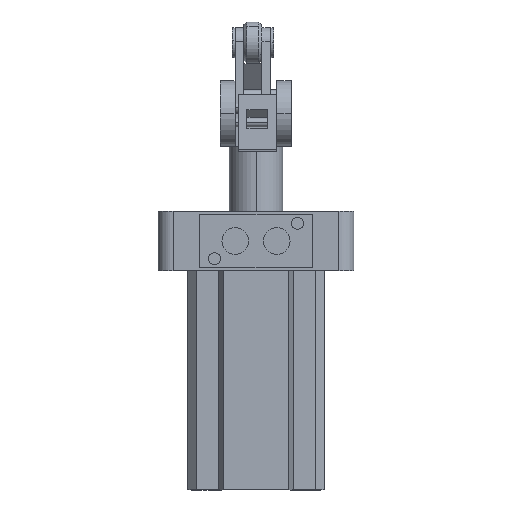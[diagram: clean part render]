
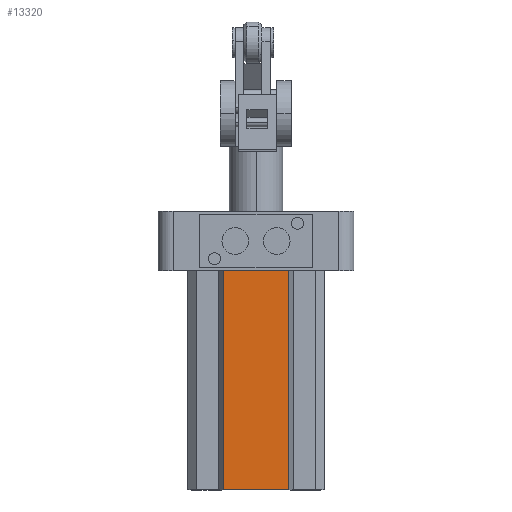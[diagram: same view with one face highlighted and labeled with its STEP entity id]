
A CAD part, left-side view. The second image highlights one B-rep face of the part: STEP entity #13320.
In plain terms, the highlighted planar face has unit normal (-1, 0, 0).
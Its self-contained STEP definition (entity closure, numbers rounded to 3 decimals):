
#2213 = CARTESIAN_POINT ( 'NONE',  ( -51.796, 11.998, 74. ) ) ;
#2266 = DIRECTION ( 'NONE',  ( -1., 0., 0. ) ) ;
#2267 = CARTESIAN_POINT ( 'NONE',  ( -51.796, 11.998, 0. ) ) ;
#2268 = AXIS2_PLACEMENT_3D ( 'NONE', #2267, #2266, #2319 ) ;
#2292 = PLANE ( 'NONE',  #2268 ) ;
#2294 = FACE_OUTER_BOUND ( 'NONE', #13326, .T. ) ;
#2319 = DIRECTION ( 'NONE',  ( 0., 0., 1. ) ) ;
#4292 = VERTEX_POINT ( 'NONE', #15109 ) ;
#4296 = VERTEX_POINT ( 'NONE', #14870 ) ;
#4315 = EDGE_CURVE ( 'NONE', #4292, #4296, #7023, .T. ) ;
#4880 = VERTEX_POINT ( 'NONE', #8671 ) ;
#4894 = ORIENTED_EDGE ( 'NONE', *, *, #4905, .F. ) ;
#4905 = EDGE_CURVE ( 'NONE', #4292, #4880, #8783, .T. ) ;
#4945 = EDGE_CURVE ( 'NONE', #13315, #4296, #8868, .T. ) ;
#5081 = EDGE_CURVE ( 'NONE', #13315, #4880, #9320, .T. ) ;
#7008 = DIRECTION ( 'NONE',  ( 0., -1., 0. ) ) ;
#7009 = VECTOR ( 'NONE', #7008, 1000. ) ;
#7022 = CARTESIAN_POINT ( 'NONE',  ( -51.796, 11.998, 0. ) ) ;
#7023 = LINE ( 'NONE', #7022, #7009 ) ;
#8671 = CARTESIAN_POINT ( 'NONE',  ( -51.796, 33.998, 74. ) ) ;
#8780 = DIRECTION ( 'NONE',  ( 0., 0., 1. ) ) ;
#8781 = VECTOR ( 'NONE', #8780, 1000. ) ;
#8782 = CARTESIAN_POINT ( 'NONE',  ( -51.796, 33.998, 0. ) ) ;
#8783 = LINE ( 'NONE', #8782, #8781 ) ;
#8865 = DIRECTION ( 'NONE',  ( 0., 0., -1. ) ) ;
#8866 = VECTOR ( 'NONE', #8865, 1000. ) ;
#8867 = CARTESIAN_POINT ( 'NONE',  ( -51.796, 11.998, 0. ) ) ;
#8868 = LINE ( 'NONE', #8867, #8866 ) ;
#9314 = DIRECTION ( 'NONE',  ( 0., 1., 0. ) ) ;
#9315 = VECTOR ( 'NONE', #9314, 1000. ) ;
#9319 = CARTESIAN_POINT ( 'NONE',  ( -51.796, -10., 74. ) ) ;
#9320 = LINE ( 'NONE', #9319, #9315 ) ;
#13311 = ORIENTED_EDGE ( 'NONE', *, *, #4945, .F. ) ;
#13313 = ORIENTED_EDGE ( 'NONE', *, *, #5081, .T. ) ;
#13315 = VERTEX_POINT ( 'NONE', #2213 ) ;
#13320 = ADVANCED_FACE ( 'NONE', ( #2294 ), #2292, .T. ) ;
#13324 = ORIENTED_EDGE ( 'NONE', *, *, #4315, .T. ) ;
#13326 = EDGE_LOOP ( 'NONE', ( #13324, #13311, #13313, #4894 ) ) ;
#14870 = CARTESIAN_POINT ( 'NONE',  ( -51.796, 11.998, 0. ) ) ;
#15109 = CARTESIAN_POINT ( 'NONE',  ( -51.796, 33.998, 0. ) ) ;
